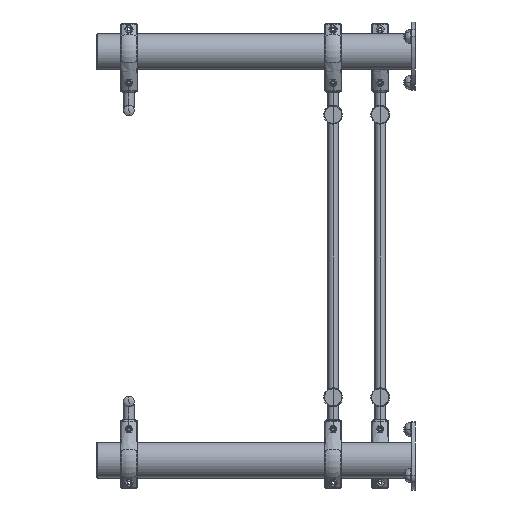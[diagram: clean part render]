
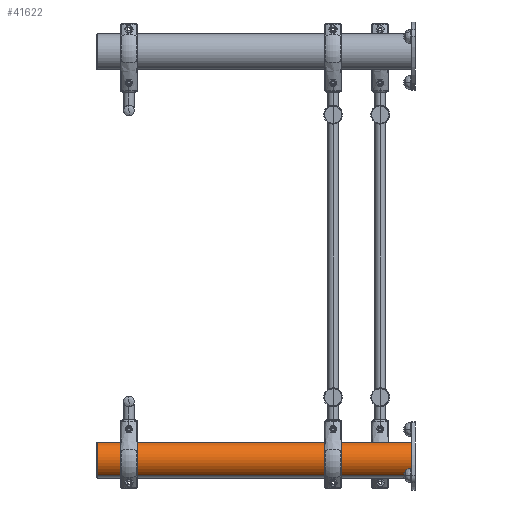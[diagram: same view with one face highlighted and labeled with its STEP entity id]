
A CAD part, left-side view. The second image highlights one B-rep face of the part: STEP entity #41622.
In plain terms, the highlighted cylindrical face has radius 57.15 mm (diameter 114.3 mm), a partial arc.
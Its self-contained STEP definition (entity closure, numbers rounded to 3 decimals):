
#1777 = DIRECTION ( 'NONE',  ( 0., 1., 0. ) ) ;
#2661 = LINE ( 'NONE', #139537, #144594 ) ;
#5289 = CARTESIAN_POINT ( 'NONE',  ( -1978.575, 12., -699.493 ) ) ;
#6950 = DIRECTION ( 'NONE',  ( 0., 1., 0. ) ) ;
#14028 = CARTESIAN_POINT ( 'NONE',  ( -1950., 1012., -650. ) ) ;
#17435 = FACE_OUTER_BOUND ( 'NONE', #151609, .T. ) ;
#26613 = CIRCLE ( 'NONE', #117020, 57.15 ) ;
#27701 = DIRECTION ( 'NONE',  ( 0., -1., 0. ) ) ;
#30268 = CARTESIAN_POINT ( 'NONE',  ( -1978.575, 1012., -699.493 ) ) ;
#36519 = CARTESIAN_POINT ( 'NONE',  ( -1921.425, 12., -600.507 ) ) ;
#41622 = ADVANCED_FACE ( 'NONE', ( #17435 ), #103171, .T. ) ;
#43322 = CARTESIAN_POINT ( 'NONE',  ( -1950., 12., -650. ) ) ;
#47969 = LINE ( 'NONE', #159353, #180652 ) ;
#54217 = VERTEX_POINT ( 'NONE', #132691 ) ;
#66497 = AXIS2_PLACEMENT_3D ( 'NONE', #14028, #27701, #86895 ) ;
#82548 = DIRECTION ( 'NONE',  ( 0., -1., 0. ) ) ;
#86895 = DIRECTION ( 'NONE',  ( 0.5, 0., 0.866 ) ) ;
#97198 = DIRECTION ( 'NONE',  ( 0.5, 0., 0.866 ) ) ;
#101162 = AXIS2_PLACEMENT_3D ( 'NONE', #171653, #155239, #102268 ) ;
#102268 = DIRECTION ( 'NONE',  ( -0.5, 0., -0.866 ) ) ;
#103171 = CYLINDRICAL_SURFACE ( 'NONE', #101162, 57.15 ) ;
#106795 = VERTEX_POINT ( 'NONE', #5289 ) ;
#107442 = CIRCLE ( 'NONE', #66497, 57.15 ) ;
#112062 = EDGE_CURVE ( 'NONE', #106795, #116289, #47969, .T. ) ;
#115087 = ORIENTED_EDGE ( 'NONE', *, *, #151946, .T. ) ;
#116289 = VERTEX_POINT ( 'NONE', #30268 ) ;
#117020 = AXIS2_PLACEMENT_3D ( 'NONE', #43322, #82548, #97198 ) ;
#117597 = EDGE_CURVE ( 'NONE', #161284, #106795, #26613, .T. ) ;
#121618 = ORIENTED_EDGE ( 'NONE', *, *, #112062, .F. ) ;
#132691 = CARTESIAN_POINT ( 'NONE',  ( -1921.425, 1012., -600.507 ) ) ;
#137605 = EDGE_CURVE ( 'NONE', #161284, #54217, #2661, .T. ) ;
#139537 = CARTESIAN_POINT ( 'NONE',  ( -1921.425, 12., -600.507 ) ) ;
#142104 = ORIENTED_EDGE ( 'NONE', *, *, #117597, .F. ) ;
#144594 = VECTOR ( 'NONE', #1777, 1000. ) ;
#151609 = EDGE_LOOP ( 'NONE', ( #142104, #168307, #115087, #121618 ) ) ;
#151946 = EDGE_CURVE ( 'NONE', #54217, #116289, #107442, .T. ) ;
#155239 = DIRECTION ( 'NONE',  ( 0., 1., 0. ) ) ;
#159353 = CARTESIAN_POINT ( 'NONE',  ( -1978.575, 12., -699.493 ) ) ;
#161284 = VERTEX_POINT ( 'NONE', #36519 ) ;
#168307 = ORIENTED_EDGE ( 'NONE', *, *, #137605, .T. ) ;
#171653 = CARTESIAN_POINT ( 'NONE',  ( -1950., 12., -650. ) ) ;
#180652 = VECTOR ( 'NONE', #6950, 1000. ) ;
